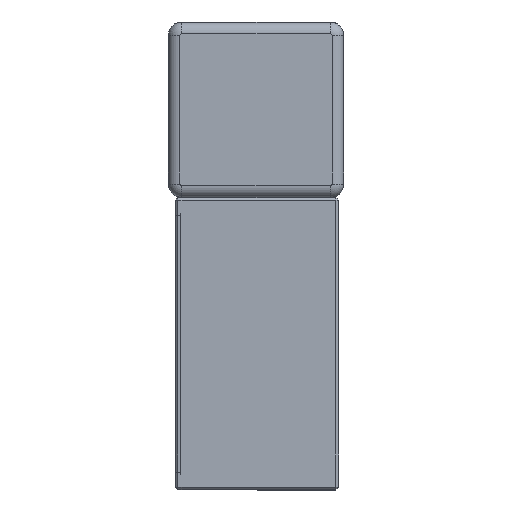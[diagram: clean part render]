
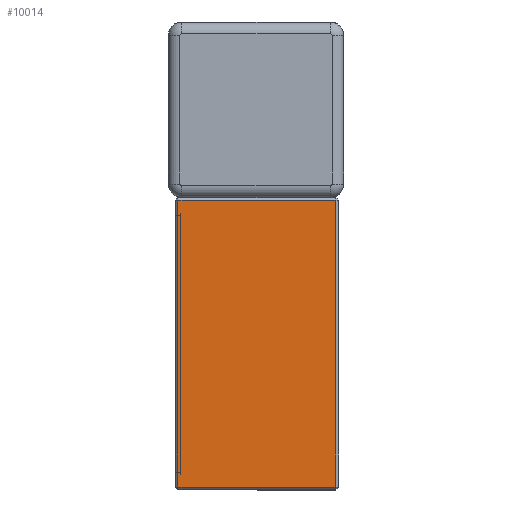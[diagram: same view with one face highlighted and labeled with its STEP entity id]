
A CAD part, left-side view. The second image highlights one B-rep face of the part: STEP entity #10014.
In plain terms, the highlighted planar face has unit normal (-1, 0, 0).
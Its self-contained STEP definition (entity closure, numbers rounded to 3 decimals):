
#687 = VERTEX_POINT ( 'NONE', #2837 ) ;
#1420 = CARTESIAN_POINT ( 'NONE',  ( 0., 49.5, 27.5 ) ) ;
#2837 = CARTESIAN_POINT ( 'NONE',  ( 0., 0.5, 27.5 ) ) ;
#4457 = VERTEX_POINT ( 'NONE', #1420 ) ;
#5415 = EDGE_LOOP ( 'NONE', ( #7115, #7116, #7117, #7118 ) ) ;
#7115 = ORIENTED_EDGE ( 'NONE', *, *, #8592, .T. ) ;
#7116 = ORIENTED_EDGE ( 'NONE', *, *, #8593, .T. ) ;
#7117 = ORIENTED_EDGE ( 'NONE', *, *, #8594, .T. ) ;
#7118 = ORIENTED_EDGE ( 'NONE', *, *, #8595, .T. ) ;
#8592 = EDGE_CURVE ( 'NONE', #4457, #11183, #15082, .T. ) ;
#8593 = EDGE_CURVE ( 'NONE', #11183, #11228, #15084, .T. ) ;
#8594 = EDGE_CURVE ( 'NONE', #11228, #687, #15087, .T. ) ;
#8595 = EDGE_CURVE ( 'NONE', #687, #4457, #15089, .T. ) ;
#10014 = ADVANCED_FACE ( 'NONE', ( #18192 ), #17696, .F. ) ;
#11183 = VERTEX_POINT ( 'NONE', #20104 ) ;
#11228 = VERTEX_POINT ( 'NONE', #20148 ) ;
#15082 = LINE ( 'NONE', #16016, #15086 ) ;
#15084 = LINE ( 'NONE', #16015, #15088 ) ;
#15086 = VECTOR ( 'NONE', #16013, 1000. ) ;
#15087 = LINE ( 'NONE', #16022, #15090 ) ;
#15088 = VECTOR ( 'NONE', #16021, 1000. ) ;
#15089 = LINE ( 'NONE', #16024, #15092 ) ;
#15090 = VECTOR ( 'NONE', #16023, 1000. ) ;
#15092 = VECTOR ( 'NONE', #16025, 1000. ) ;
#16013 = DIRECTION ( 'NONE',  ( 0., 0., -1. ) ) ;
#16015 = CARTESIAN_POINT ( 'NONE',  ( 0., 0., 0.5 ) ) ;
#16016 = CARTESIAN_POINT ( 'NONE',  ( 0., 49.5, 28. ) ) ;
#16021 = DIRECTION ( 'NONE',  ( 0., -1., 0. ) ) ;
#16022 = CARTESIAN_POINT ( 'NONE',  ( 0., 0.5, 28. ) ) ;
#16023 = DIRECTION ( 'NONE',  ( 0., 0., 1. ) ) ;
#16024 = CARTESIAN_POINT ( 'NONE',  ( 0., 0., 27.5 ) ) ;
#16025 = DIRECTION ( 'NONE',  ( 0., 1., 0. ) ) ;
#17693 = CARTESIAN_POINT ( 'NONE',  ( 0., 0., 28. ) ) ;
#17696 = PLANE ( 'NONE',  #17996 ) ;
#17698 = DIRECTION ( 'NONE',  ( 1., 0., 0. ) ) ;
#17699 = DIRECTION ( 'NONE',  ( 0., 0., -1. ) ) ;
#17996 = AXIS2_PLACEMENT_3D ( 'NONE', #17693, #17698, #17699 ) ;
#18192 = FACE_OUTER_BOUND ( 'NONE', #5415, .T. ) ;
#20104 = CARTESIAN_POINT ( 'NONE',  ( 0., 49.5, 0.5 ) ) ;
#20148 = CARTESIAN_POINT ( 'NONE',  ( 0., 0.5, 0.5 ) ) ;
